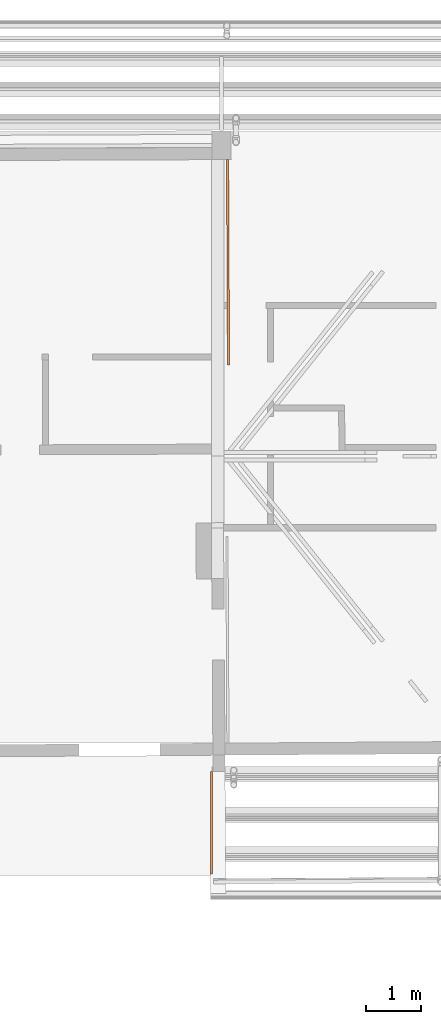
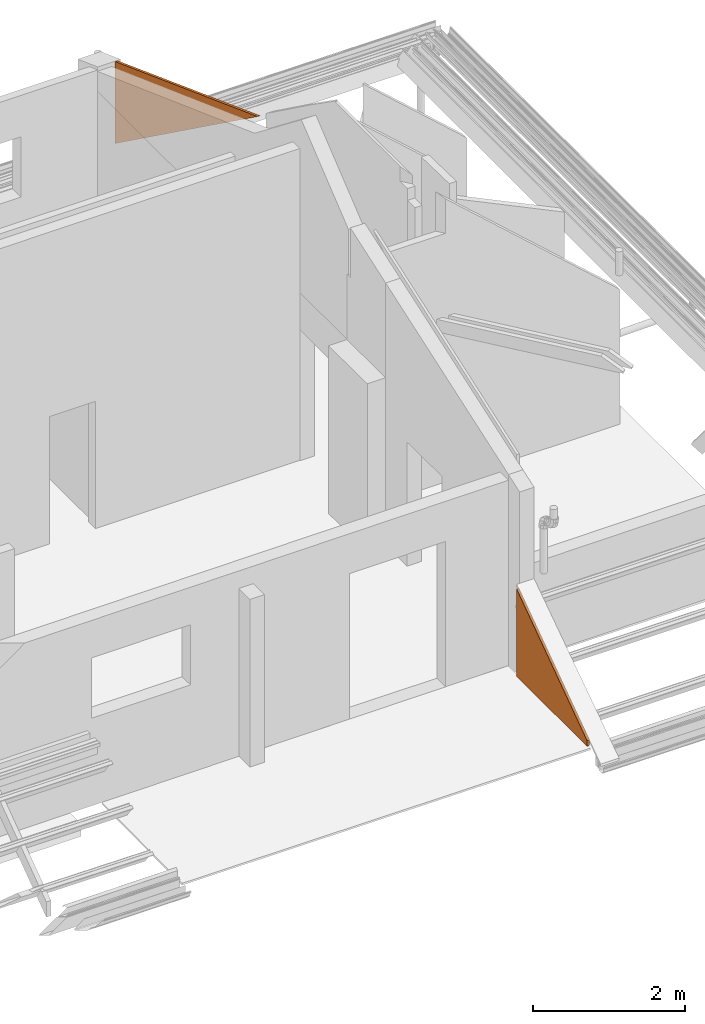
# One storey, part 15 of 15: 2 proxies.
"""IFC2X3 building model written with IfcOpenShell, lengths in centimetres."""

from ifc_helpers import new_model, entity, si_unit, converted_unit, direction, frame, origin, place, context, subcontext, project, spatial, polyline, outline, extrude, source, transform, mapped, material, type_object, type_shapes, element, save


model = new_model("IFC2X3")

# Units and contexts
model_context = context("Model", 3, precision=0.001, world=frame((0.0, 0.0, 13090.0)), true_north=direction((6.123233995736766e-17, 1.0)))
body_context = subcontext(model_context, "Body", "Model", "MODEL_VIEW")
ifc_project = project(units=[si_unit("LENGTHUNIT", "METRE", prefix="CENTI"), si_unit("AREAUNIT", "SQUARE_METRE"), si_unit("VOLUMEUNIT", "CUBIC_METRE"), converted_unit("PLANEANGLEUNIT", "DEGREE", entity("IfcPlaneAngleMeasure", 0.017453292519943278), si_unit("PLANEANGLEUNIT", "RADIAN"), dimensions=[0, 0, 0, 0, 0, 0, 0])], contexts=[model_context])

# Site, building, storey
site_placement = place(None, origin())
site = spatial("IfcSite", under=ifc_project, at=site_placement, Name="Default", CompositionType="ELEMENT")
building_placement = place(site_placement, origin())
building = spatial("IfcBuilding", under=site, at=building_placement, Name="e 39 logements et 22 maisons relais", CompositionType="ELEMENT")
storey_placement = place(building_placement, frame((0.0, 0.0, 340.0)))
storey = spatial("IfcBuildingStorey", under=building, at=storey_placement, Name="R+1", CompositionType="ELEMENT", Elevation=339.99999999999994)

# Proxies
ifc_material = material(Name="tole")
building_element_proxy_type_1 = type_object("IfcBuildingElementProxyType", Name="Ossature 2:Ossature 2", PredefinedType="NOTDEFINED", material=ifc_material)
shared_shape_1 = source(origin(), body_context, "Body", "SweptSolid", [
    extrude(outline(polyline([(-135.43776666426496, -30.476000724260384), (92.23837021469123, -30.476000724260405), (97.37460687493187, -23.22904983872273), (-54.1752104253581, 84.18105128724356), (-135.43776666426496, -30.476000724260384)])), frame((588.7823129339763, -686.8071136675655, 379.35416420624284), z_axis=(1.0, 0.0, 0.0), x_axis=(0.0, -0.8158662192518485, -0.5782407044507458)), (0.0, 0.0, 1.0), 3.999999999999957),
])
type_shapes(building_element_proxy_type_1, [shared_shape_1])
proxy_1_placement = place(storey_placement, frame((-5.386510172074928, -0.4105041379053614, -340.0)))
element("IfcBuildingElementProxy", 1, at=proxy_1_placement, inside=storey, type_object=building_element_proxy_type_1, material=ifc_material, Name="Ossature 2:Ossature 2", ObjectType="Ossature 2:Ossature 2", context=body_context, shape_type="MappedRepresentation", body=[
    mapped(shared_shape_1, transform((0.0, 0.0, 0.0), scale=1.0)),
])
building_element_proxy_type_2 = type_object("IfcBuildingElementProxyType", Name="Ossature 1:Ossature 1", PredefinedType="NOTDEFINED", material=ifc_material)
shared_shape_2 = source(origin(), body_context, "Body", "SweptSolid", [
    extrude(outline(polyline([(-117.18610066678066, -41.31816869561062), (279.885572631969, -41.31816869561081), (-162.6994719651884, 82.63633739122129), (-117.18610066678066, -41.31816869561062)])), frame((608.055801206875, 390.922197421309, 650.1335116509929), z_axis=(0.9999895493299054, 0.00457178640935, 0.0), x_axis=(0.004291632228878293, -0.9387112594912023, 0.3446777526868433)), (0.0, 0.0, 1.0), 4.000000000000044),
])
type_shapes(building_element_proxy_type_2, [shared_shape_2])
proxy_2_placement = place(storey_placement, frame((5.0, 0.0, -340.0)))
element("IfcBuildingElementProxy", 2, at=proxy_2_placement, inside=storey, type_object=building_element_proxy_type_2, material=ifc_material, Name="Ossature 1:Ossature 1", ObjectType="Ossature 1:Ossature 1", context=body_context, shape_type="MappedRepresentation", body=[
    mapped(shared_shape_2, transform((0.0, 0.0, 0.0), scale=1.0)),
])

save(model, "model.ifc")
